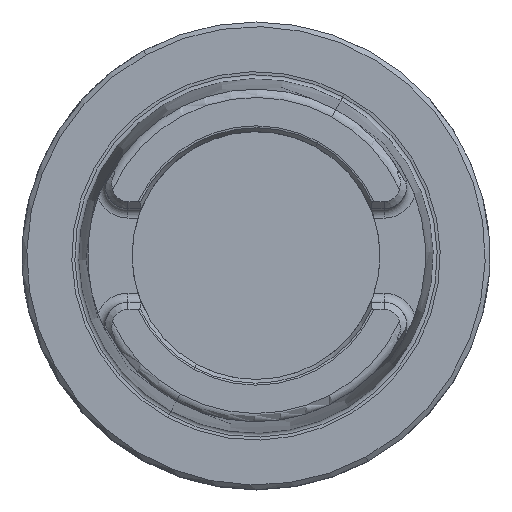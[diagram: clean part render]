
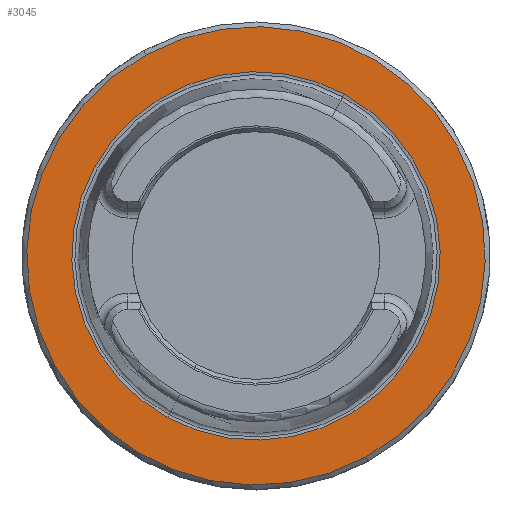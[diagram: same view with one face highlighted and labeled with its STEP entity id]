
A CAD part, top view. The second image highlights one B-rep face of the part: STEP entity #3045.
In plain terms, the highlighted planar face has unit normal (0, 0, 1).
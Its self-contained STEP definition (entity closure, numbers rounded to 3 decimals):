
#2952=AXIS2_PLACEMENT_3D('Circle Axis2P3D',#2950,#2951,$) ;
#2972=AXIS2_PLACEMENT_3D('Circle Axis2P3D',#2970,#2971,$) ;
#3021=AXIS2_PLACEMENT_3D('Plane Axis2P3D',#3018,#3019,#3020) ;
#3029=AXIS2_PLACEMENT_3D('Circle Axis2P3D',#3027,#3028,$) ;
#3038=AXIS2_PLACEMENT_3D('Circle Axis2P3D',#3036,#3037,$) ;
#2947=CARTESIAN_POINT('Vertex',(23.492,-43.002,0.)) ;
#2950=CARTESIAN_POINT('Axis2P3D Location',(0.,0.,0.)) ;
#2954=CARTESIAN_POINT('Vertex',(-23.492,43.002,0.)) ;
#2970=CARTESIAN_POINT('Axis2P3D Location',(0.,0.,0.)) ;
#3018=CARTESIAN_POINT('Axis2P3D Location',(0.,-38.285,0.)) ;
#3027=CARTESIAN_POINT('Axis2P3D Location',(0.,0.,0.)) ;
#3031=CARTESIAN_POINT('Vertex',(18.88,34.56,0.)) ;
#3033=CARTESIAN_POINT('Vertex',(-18.88,-34.56,0.)) ;
#3036=CARTESIAN_POINT('Axis2P3D Location',(0.,0.,0.)) ;
#2951=DIRECTION('Axis2P3D Direction',(0.,0.,-1.)) ;
#2971=DIRECTION('Axis2P3D Direction',(0.,0.,-1.)) ;
#3019=DIRECTION('Axis2P3D Direction',(0.,0.,-1.)) ;
#3020=DIRECTION('Axis2P3D XDirection',(-1.,0.,0.)) ;
#3028=DIRECTION('Axis2P3D Direction',(0.,0.,-1.)) ;
#3037=DIRECTION('Axis2P3D Direction',(0.,0.,-1.)) ;
#3024=ORIENTED_EDGE('',*,*,#2956,.F.) ;
#3025=ORIENTED_EDGE('',*,*,#2974,.F.) ;
#3042=ORIENTED_EDGE('',*,*,#3035,.T.) ;
#3043=ORIENTED_EDGE('',*,*,#3040,.T.) ;
#3044=FACE_BOUND('',#3041,.T.) ;
#3045=ADVANCED_FACE('NO_CUT',(#3026,#3044),#3022,.F.) ;
#2953=CIRCLE('generated circle',#2952,49.) ;
#2973=CIRCLE('generated circle',#2972,49.) ;
#3030=CIRCLE('generated circle',#3029,39.381) ;
#3039=CIRCLE('generated circle',#3038,39.381) ;
#2956=EDGE_CURVE('',#2948,#2955,#2953,.T.) ;
#2974=EDGE_CURVE('',#2955,#2948,#2973,.T.) ;
#3035=EDGE_CURVE('',#3032,#3034,#3030,.T.) ;
#3040=EDGE_CURVE('',#3034,#3032,#3039,.T.) ;
#3023=EDGE_LOOP('',(#3024,#3025)) ;
#3041=EDGE_LOOP('',(#3042,#3043)) ;
#3026=FACE_OUTER_BOUND('',#3023,.T.) ;
#3022=PLANE('',#3021) ;
#2948=VERTEX_POINT('',#2947) ;
#2955=VERTEX_POINT('',#2954) ;
#3032=VERTEX_POINT('',#3031) ;
#3034=VERTEX_POINT('',#3033) ;
